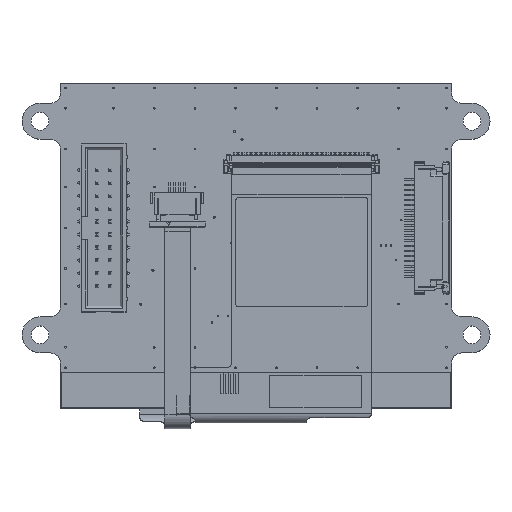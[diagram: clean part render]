
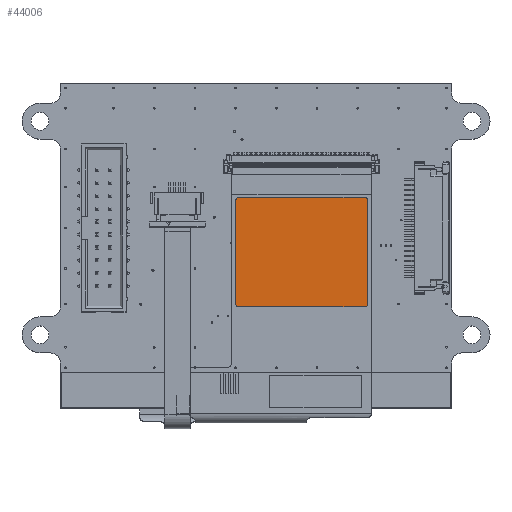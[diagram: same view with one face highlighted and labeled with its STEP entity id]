
A CAD part, top view. The second image highlights one B-rep face of the part: STEP entity #44006.
In plain terms, the highlighted planar face has unit normal (0, -0.024, 1).
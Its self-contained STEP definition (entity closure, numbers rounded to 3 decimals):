
#532 = CARTESIAN_POINT ( 'NONE',  ( 29.757, 38.047, 63.808 ) ) ;
#913 = DIRECTION ( 'NONE',  ( 0., 1., 0.024 ) ) ;
#8261 = AXIS2_PLACEMENT_3D ( 'NONE', #142268, #56749, #42464 ) ;
#8785 = VERTEX_POINT ( 'NONE', #153472 ) ;
#11252 = ORIENTED_EDGE ( 'NONE', *, *, #81006, .T. ) ;
#12339 = DIRECTION ( 'NONE',  ( 0., -0.024, 1. ) ) ;
#15149 = CARTESIAN_POINT ( 'NONE',  ( 29.757, 59.041, 64.321 ) ) ;
#15184 = VERTEX_POINT ( 'NONE', #162691 ) ;
#18466 = ORIENTED_EDGE ( 'NONE', *, *, #33981, .T. ) ;
#19220 = CARTESIAN_POINT ( 'NONE',  ( 29.257, 45.378, 63.988 ) ) ;
#20376 = EDGE_CURVE ( 'NONE', #139073, #15184, #69295, .T. ) ;
#20578 = DIRECTION ( 'NONE',  ( 0., -0.024, 1. ) ) ;
#21861 = AXIS2_PLACEMENT_3D ( 'NONE', #176815, #131292, #101854 ) ;
#28628 = CARTESIAN_POINT ( 'NONE',  ( 46.357, 59.541, 64.334 ) ) ;
#32998 = B_SPLINE_CURVE_WITH_KNOTS ( 'NONE', 3,
 ( #186383, #28628, #86613, #87527 ),
 .UNSPECIFIED., .F., .F.,
 ( 4, 4 ),
 ( 0., 1. ),
 .UNSPECIFIED. ) ;
#33951 = CARTESIAN_POINT ( 'NONE',  ( 55.157, 45.378, 63.988 ) ) ;
#33981 = EDGE_CURVE ( 'NONE', #42320, #139073, #169304, .T. ) ;
#37721 = CARTESIAN_POINT ( 'NONE',  ( 55.157, 38.547, 63.821 ) ) ;
#41062 = DIRECTION ( 'NONE',  ( 0., 1., 0.024 ) ) ;
#42320 = VERTEX_POINT ( 'NONE', #119673 ) ;
#42464 = DIRECTION ( 'NONE',  ( 0., 1., 0.024 ) ) ;
#44006 = ADVANCED_FACE ( 'NONE', ( #49100 ), #154518, .T. ) ;
#46597 = ORIENTED_EDGE ( 'NONE', *, *, #130045, .T. ) ;
#47568 = EDGE_CURVE ( 'NONE', #15184, #187571, #134651, .T. ) ;
#49100 = FACE_OUTER_BOUND ( 'NONE', #147657, .T. ) ;
#56749 = DIRECTION ( 'NONE',  ( 0., -0.024, 1. ) ) ;
#57203 = DIRECTION ( 'NONE',  ( 0., -0.024, 1. ) ) ;
#58539 = CARTESIAN_POINT ( 'NONE',  ( 38.057, 38.047, 63.808 ) ) ;
#59737 = EDGE_CURVE ( 'NONE', #187571, #101568, #185787, .T. ) ;
#69295 = CIRCLE ( 'NONE', #148264, 0.5 ) ;
#69620 = ORIENTED_EDGE ( 'NONE', *, *, #59737, .T. ) ;
#78687 = CARTESIAN_POINT ( 'NONE',  ( 54.657, 38.047, 63.808 ) ) ;
#79485 = DIRECTION ( 'NONE',  ( 0., 1., 0.024 ) ) ;
#81006 = EDGE_CURVE ( 'NONE', #8785, #151547, #187395, .T. ) ;
#81456 = CARTESIAN_POINT ( 'NONE',  ( 29.757, 59.541, 64.334 ) ) ;
#82895 = ORIENTED_EDGE ( 'NONE', *, *, #47568, .T. ) ;
#85951 = ORIENTED_EDGE ( 'NONE', *, *, #20376, .T. ) ;
#86613 = CARTESIAN_POINT ( 'NONE',  ( 38.057, 59.541, 64.334 ) ) ;
#87527 = CARTESIAN_POINT ( 'NONE',  ( 29.757, 59.541, 64.334 ) ) ;
#89619 = CARTESIAN_POINT ( 'NONE',  ( 29.257, 59.041, 64.321 ) ) ;
#90528 = CARTESIAN_POINT ( 'NONE',  ( 29.257, 52.209, 64.154 ) ) ;
#101568 = VERTEX_POINT ( 'NONE', #160159 ) ;
#101854 = DIRECTION ( 'NONE',  ( 0., 1., 0.024 ) ) ;
#107583 = VERTEX_POINT ( 'NONE', #81456 ) ;
#110079 = EDGE_CURVE ( 'NONE', #107583, #42320, #153925, .T. ) ;
#119673 = CARTESIAN_POINT ( 'NONE',  ( 29.257, 59.041, 64.321 ) ) ;
#120569 = AXIS2_PLACEMENT_3D ( 'NONE', #15149, #12339, #913 ) ;
#127029 = CARTESIAN_POINT ( 'NONE',  ( 29.257, 38.547, 63.821 ) ) ;
#130045 = EDGE_CURVE ( 'NONE', #101568, #8785, #158820, .T. ) ;
#131292 = DIRECTION ( 'NONE',  ( 0., -0.024, 1. ) ) ;
#134651 = B_SPLINE_CURVE_WITH_KNOTS ( 'NONE', 3,
 ( #532, #58539, #142182, #160203 ),
 .UNSPECIFIED., .F., .F.,
 ( 4, 4 ),
 ( 0., 1. ),
 .UNSPECIFIED. ) ;
#139073 = VERTEX_POINT ( 'NONE', #127029 ) ;
#142182 = CARTESIAN_POINT ( 'NONE',  ( 46.357, 38.047, 63.808 ) ) ;
#142268 = CARTESIAN_POINT ( 'NONE',  ( 54.657, 59.041, 64.321 ) ) ;
#143330 = AXIS2_PLACEMENT_3D ( 'NONE', #151709, #20578, #79485 ) ;
#147657 = EDGE_LOOP ( 'NONE', ( #82895, #69620, #46597, #11252, #181559, #149042, #18466, #85951 ) ) ;
#148264 = AXIS2_PLACEMENT_3D ( 'NONE', #173107, #57203, #41062 ) ;
#149042 = ORIENTED_EDGE ( 'NONE', *, *, #110079, .T. ) ;
#151547 = VERTEX_POINT ( 'NONE', #178315 ) ;
#151709 = CARTESIAN_POINT ( 'NONE',  ( 34.189, 34.562, 63.723 ) ) ;
#151754 = CARTESIAN_POINT ( 'NONE',  ( 55.157, 52.209, 64.154 ) ) ;
#153472 = CARTESIAN_POINT ( 'NONE',  ( 55.157, 59.041, 64.321 ) ) ;
#153925 = CIRCLE ( 'NONE', #120569, 0.5 ) ;
#154518 = PLANE ( 'NONE',  #143330 ) ;
#158820 = B_SPLINE_CURVE_WITH_KNOTS ( 'NONE', 3,
 ( #37721, #33951, #151754, #180288 ),
 .UNSPECIFIED., .F., .F.,
 ( 4, 4 ),
 ( 0., 1. ),
 .UNSPECIFIED. ) ;
#160159 = CARTESIAN_POINT ( 'NONE',  ( 55.157, 38.547, 63.821 ) ) ;
#160203 = CARTESIAN_POINT ( 'NONE',  ( 54.657, 38.047, 63.808 ) ) ;
#162691 = CARTESIAN_POINT ( 'NONE',  ( 29.757, 38.047, 63.808 ) ) ;
#169304 = B_SPLINE_CURVE_WITH_KNOTS ( 'NONE', 3,
 ( #89619, #90528, #19220, #179795 ),
 .UNSPECIFIED., .F., .F.,
 ( 4, 4 ),
 ( 0., 1. ),
 .UNSPECIFIED. ) ;
#173107 = CARTESIAN_POINT ( 'NONE',  ( 29.757, 38.547, 63.821 ) ) ;
#176815 = CARTESIAN_POINT ( 'NONE',  ( 54.657, 38.547, 63.821 ) ) ;
#177920 = EDGE_CURVE ( 'NONE', #151547, #107583, #32998, .T. ) ;
#178315 = CARTESIAN_POINT ( 'NONE',  ( 54.657, 59.541, 64.334 ) ) ;
#179795 = CARTESIAN_POINT ( 'NONE',  ( 29.257, 38.547, 63.821 ) ) ;
#180288 = CARTESIAN_POINT ( 'NONE',  ( 55.157, 59.041, 64.321 ) ) ;
#181559 = ORIENTED_EDGE ( 'NONE', *, *, #177920, .T. ) ;
#185787 = CIRCLE ( 'NONE', #21861, 0.5 ) ;
#186383 = CARTESIAN_POINT ( 'NONE',  ( 54.657, 59.541, 64.334 ) ) ;
#187395 = CIRCLE ( 'NONE', #8261, 0.5 ) ;
#187571 = VERTEX_POINT ( 'NONE', #78687 ) ;
